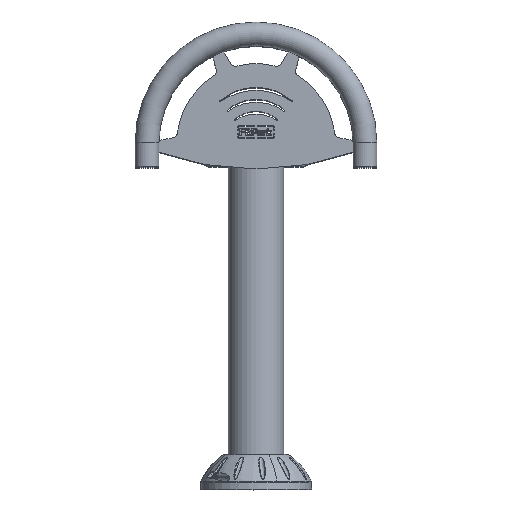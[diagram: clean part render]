
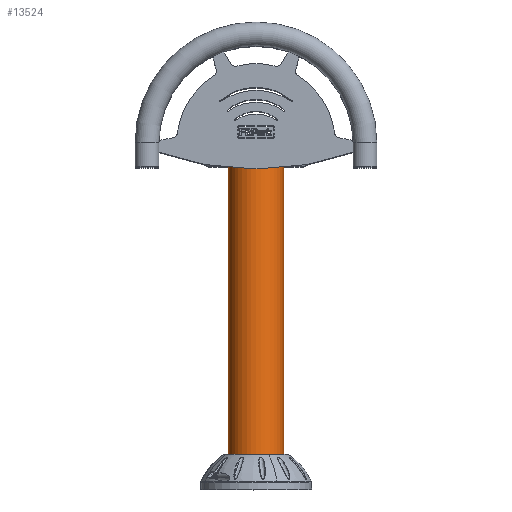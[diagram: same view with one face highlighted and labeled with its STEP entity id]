
A CAD part, top view. The second image highlights one B-rep face of the part: STEP entity #13524.
In plain terms, the highlighted cylindrical face has radius 69.85 mm (diameter 139.7 mm), a partial arc.
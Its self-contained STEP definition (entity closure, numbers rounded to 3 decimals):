
#13524 = ADVANCED_FACE ( 'NONE', ( #64938 ), #31424, .T. ) ;
#14048 = CARTESIAN_POINT ( 'NONE',  ( -69.85, 0., 0. ) ) ;
#14283 = AXIS2_PLACEMENT_3D ( 'NONE', #14407, #47367, #48454 ) ;
#14407 = CARTESIAN_POINT ( 'NONE',  ( 0., 0., 800. ) ) ;
#17448 = CARTESIAN_POINT ( 'NONE',  ( 69.85, 0., 800. ) ) ;
#22546 = CARTESIAN_POINT ( 'NONE',  ( 0., 0., 0. ) ) ;
#22622 = CIRCLE ( 'NONE', #31423, 69.85 ) ;
#24708 = LINE ( 'NONE', #32954, #80786 ) ;
#26618 = EDGE_CURVE ( 'NONE', #91268, #81732, #91099, .T. ) ;
#28504 = CARTESIAN_POINT ( 'NONE',  ( -69.85, 0., 800. ) ) ;
#30783 = DIRECTION ( 'NONE',  ( 0., 0., 1. ) ) ;
#31423 = AXIS2_PLACEMENT_3D ( 'NONE', #22546, #30783, #98941 ) ;
#31424 = CYLINDRICAL_SURFACE ( 'NONE', #14283, 69.85 ) ;
#31630 = EDGE_CURVE ( 'NONE', #91268, #35812, #84375, .T. ) ;
#32954 = CARTESIAN_POINT ( 'NONE',  ( -69.85, 0., 800. ) ) ;
#35812 = VERTEX_POINT ( 'NONE', #28504 ) ;
#40745 = DIRECTION ( 'NONE',  ( 1., 0., 0. ) ) ;
#43992 = EDGE_LOOP ( 'NONE', ( #72487, #73615, #86446, #82111 ) ) ;
#44188 = EDGE_CURVE ( 'NONE', #35812, #56277, #24708, .T. ) ;
#47367 = DIRECTION ( 'NONE',  ( 0., 0., -1. ) ) ;
#48454 = DIRECTION ( 'NONE',  ( -1., 0., 0. ) ) ;
#48833 = VECTOR ( 'NONE', #99892, 1000. ) ;
#51022 = AXIS2_PLACEMENT_3D ( 'NONE', #91323, #65482, #40745 ) ;
#56277 = VERTEX_POINT ( 'NONE', #14048 ) ;
#64938 = FACE_OUTER_BOUND ( 'NONE', #43992, .T. ) ;
#65306 = CARTESIAN_POINT ( 'NONE',  ( 69.85, 0., 0. ) ) ;
#65482 = DIRECTION ( 'NONE',  ( 0., 0., 1. ) ) ;
#72487 = ORIENTED_EDGE ( 'NONE', *, *, #31630, .F. ) ;
#73267 = CARTESIAN_POINT ( 'NONE',  ( 69.85, 0., 800. ) ) ;
#73615 = ORIENTED_EDGE ( 'NONE', *, *, #26618, .T. ) ;
#75928 = EDGE_CURVE ( 'NONE', #81732, #56277, #22622, .T. ) ;
#80786 = VECTOR ( 'NONE', #91218, 1000. ) ;
#81732 = VERTEX_POINT ( 'NONE', #65306 ) ;
#82111 = ORIENTED_EDGE ( 'NONE', *, *, #44188, .F. ) ;
#84375 = CIRCLE ( 'NONE', #51022, 69.85 ) ;
#86446 = ORIENTED_EDGE ( 'NONE', *, *, #75928, .T. ) ;
#91099 = LINE ( 'NONE', #17448, #48833 ) ;
#91218 = DIRECTION ( 'NONE',  ( 0., 0., -1. ) ) ;
#91268 = VERTEX_POINT ( 'NONE', #73267 ) ;
#91323 = CARTESIAN_POINT ( 'NONE',  ( 0., 0., 800. ) ) ;
#98941 = DIRECTION ( 'NONE',  ( 1., 0., 0. ) ) ;
#99892 = DIRECTION ( 'NONE',  ( 0., 0., -1. ) ) ;
